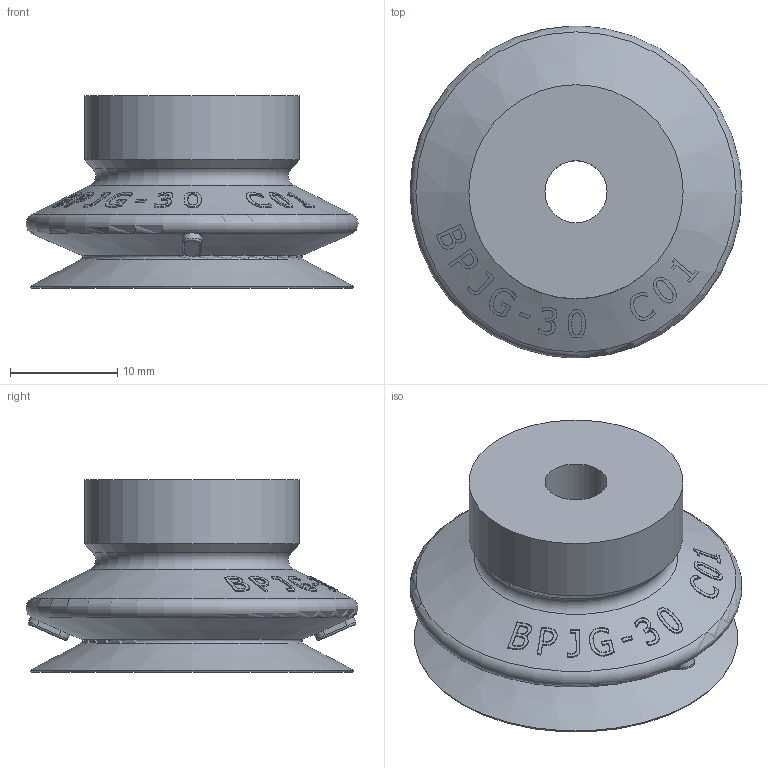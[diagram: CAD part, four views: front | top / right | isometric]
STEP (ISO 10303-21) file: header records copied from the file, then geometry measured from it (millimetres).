
FILE_DESCRIPTION(('STEP AP203'),'1');
FILE_NAME('_3D.stp','2025-10-17T07:05:22',(' '),(' '),'Spatial InterOp 3D',' ',' ');
FILE_SCHEMA(('CONFIG_CONTROL_DESIGN'));
Length unit declared in the file: millimetre
Products named in the file (1): 1
Bounding box: 30.99 x 30.99 x 18 mm (x, y, z)
Volume: 5703.7 mm3; surface area: 3528.5 mm2
Topology: 1 solids, 1 shells, 652 faces, 1890 edges, 1255 vertices
Faces by surface type: plane 613, cone 21, cylinder 11, torus 7
Full cylindrical faces by diameter (mm): 5.8 x1, 10.8 x1, 20 x1
Entity records: 22053 total; most frequent: CARTESIAN_POINT 6918, ORIENTED_EDGE 3748, DIRECTION 2179, EDGE_CURVE 1874, VERTEX_POINT 1251, B_SPLINE_CURVE_WITH_KNOTS 1032, LINE 811, VECTOR 811
